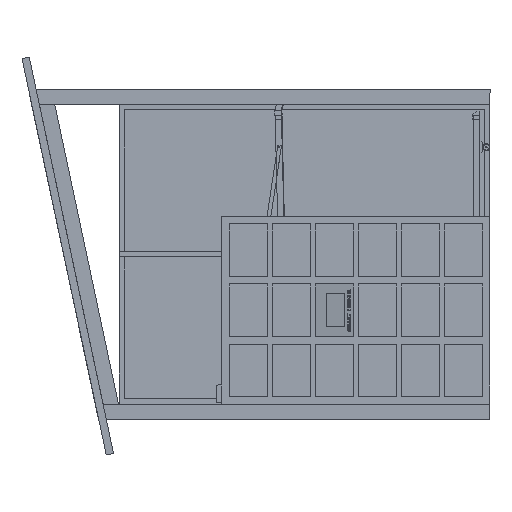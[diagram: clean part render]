
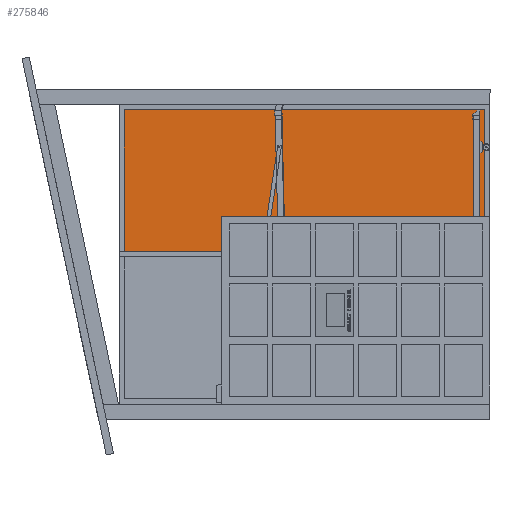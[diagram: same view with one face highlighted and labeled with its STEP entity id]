
A CAD part, left-side view. The second image highlights one B-rep face of the part: STEP entity #275846.
In plain terms, the highlighted planar face has unit normal (-1, 0, 0) as drawn and (0, 1, 0) by its records, which use the part's own axes.
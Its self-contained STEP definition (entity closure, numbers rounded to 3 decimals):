
#21828 = PLANE ( 'NONE',  #55085 ) ;
#22452 = B_SPLINE_CURVE_WITH_KNOTS ( 'NONE', 1,
 ( #363672, #134737 ),
 .UNSPECIFIED., .F., .F.,
 ( 2, 2 ),
 ( -3208.193, -1668.193 ),
 .UNSPECIFIED. ) ;
#26385 = CARTESIAN_POINT ( 'NONE',  ( 133.252, 357.496, 3.133 ) ) ;
#32277 = CARTESIAN_POINT ( 'NONE',  ( 133.252, 357.496, 3.133 ) ) ;
#39895 = CARTESIAN_POINT ( 'NONE',  ( 38.684, 357.496, 243.253 ) ) ;
#42435 = VERTEX_POINT ( 'NONE', #189947 ) ;
#53260 = B_SPLINE_CURVE_WITH_KNOTS ( 'NONE', 1,
 ( #382121, #32277 ),
 .UNSPECIFIED., .F., .F.,
 ( 2, 2 ),
 ( -1668.193, -1575. ),
 .UNSPECIFIED. ) ;
#54064 = VERTEX_POINT ( 'NONE', #39895 ) ;
#55085 = AXIS2_PLACEMENT_3D ( 'NONE', #215425, #250771, #115542 ) ;
#58152 = CARTESIAN_POINT ( 'NONE',  ( 38.684, 357.496, 243.253 ) ) ;
#70875 = B_SPLINE_CURVE_WITH_KNOTS ( 'NONE', 1,
 ( #181107, #58152 ),
 .UNSPECIFIED., .F., .F.,
 ( 2, 2 ),
 ( -3301.386, -3208.193 ),
 .UNSPECIFIED. ) ;
#88402 = FACE_OUTER_BOUND ( 'NONE', #196966, .T. ) ;
#115542 = DIRECTION ( 'NONE',  ( 1., 0., 0. ) ) ;
#134737 = CARTESIAN_POINT ( 'NONE',  ( 133.252, 357.496, 243.253 ) ) ;
#142356 = VERTEX_POINT ( 'NONE', #271604 ) ;
#159926 = EDGE_CURVE ( 'NONE', #179853, #42435, #53260, .T. ) ;
#179853 = VERTEX_POINT ( 'NONE', #226807 ) ;
#181107 = CARTESIAN_POINT ( 'NONE',  ( 38.684, 357.496, 3.133 ) ) ;
#181816 = EDGE_CURVE ( 'NONE', #142356, #54064, #70875, .T. ) ;
#189947 = CARTESIAN_POINT ( 'NONE',  ( 133.252, 357.496, 3.133 ) ) ;
#196966 = EDGE_LOOP ( 'NONE', ( #354706, #397208, #288978, #383716 ) ) ;
#215425 = CARTESIAN_POINT ( 'NONE',  ( 133.252, 357.496, 3.133 ) ) ;
#226807 = CARTESIAN_POINT ( 'NONE',  ( 133.252, 357.496, 243.253 ) ) ;
#250771 = DIRECTION ( 'NONE',  ( 0., 1., 0. ) ) ;
#258890 = EDGE_CURVE ( 'NONE', #54064, #179853, #22452, .T. ) ;
#271604 = CARTESIAN_POINT ( 'NONE',  ( 38.684, 357.496, 3.133 ) ) ;
#275846 = ADVANCED_FACE ( 'NONE', ( #88402 ), #21828, .T. ) ;
#288978 = ORIENTED_EDGE ( 'NONE', *, *, #159926, .T. ) ;
#313696 = CARTESIAN_POINT ( 'NONE',  ( 38.684, 357.496, 3.133 ) ) ;
#334271 = EDGE_CURVE ( 'NONE', #42435, #142356, #348850, .T. ) ;
#348850 = B_SPLINE_CURVE_WITH_KNOTS ( 'NONE', 1,
 ( #26385, #313696 ),
 .UNSPECIFIED., .F., .F.,
 ( 2, 2 ),
 ( -1575., -35. ),
 .UNSPECIFIED. ) ;
#354706 = ORIENTED_EDGE ( 'NONE', *, *, #181816, .T. ) ;
#363672 = CARTESIAN_POINT ( 'NONE',  ( 38.684, 357.496, 243.253 ) ) ;
#382121 = CARTESIAN_POINT ( 'NONE',  ( 133.252, 357.496, 243.253 ) ) ;
#383716 = ORIENTED_EDGE ( 'NONE', *, *, #334271, .T. ) ;
#397208 = ORIENTED_EDGE ( 'NONE', *, *, #258890, .T. ) ;
